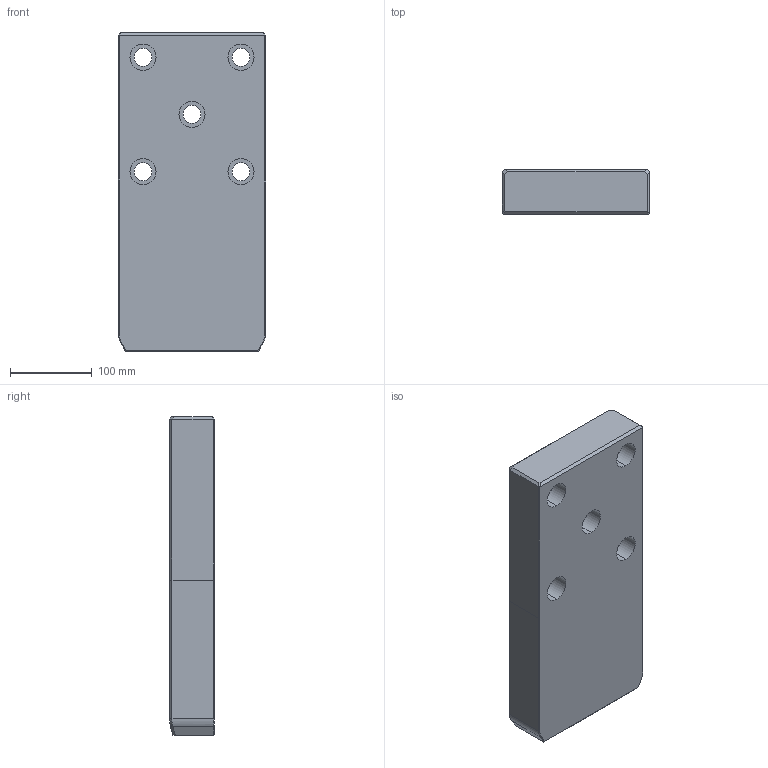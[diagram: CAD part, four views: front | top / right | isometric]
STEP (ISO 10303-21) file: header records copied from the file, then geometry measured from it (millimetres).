
FILE_DESCRIPTION((''),'2;1');
FILE_NAME('','2010-08-30T14:09:43+09:00',('misumi'),(''),'M/STEP i/f 1R2-14','CADmeister v5.1','');
FILE_SCHEMA(('AUTOMOTIVE_DESIGN'));
Length unit declared in the file: millimetre
Products named in the file (1): OGPZ180-390
Bounding box: 180 x 55 x 390 mm (x, y, z)
Volume: 3687774 mm3; surface area: 218473.5 mm2
Topology: 1 solids, 1 shells, 71 faces, 168 edges, 105 vertices
Faces by surface type: plane 38, cylinder 25, bspline 6, cone 2
Entity records: 2416 total; most frequent: CARTESIAN_POINT 687, ORIENTED_EDGE 336, DIRECTION 330, EDGE_CURVE 168, AXIS2_PLACEMENT_3D 114, VERTEX_POINT 105, LINE 102, VECTOR 102
